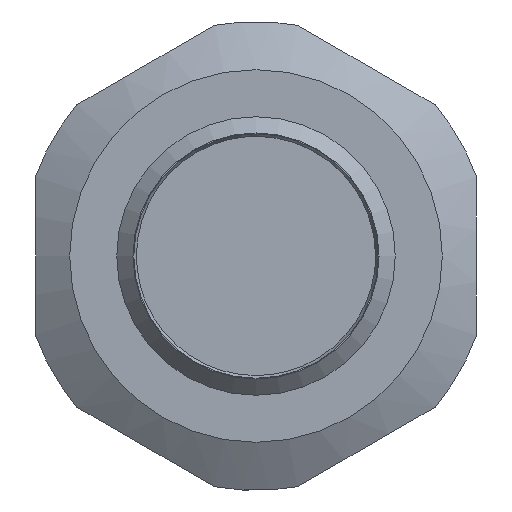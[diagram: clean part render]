
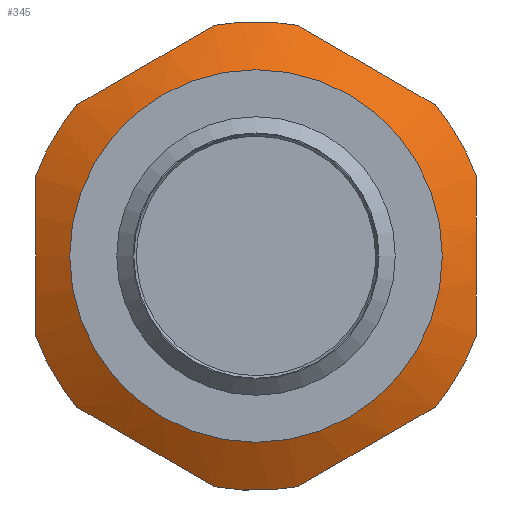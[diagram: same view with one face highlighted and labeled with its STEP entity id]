
A CAD part, front view. The second image highlights one B-rep face of the part: STEP entity #345.
In plain terms, the highlighted conical face has half-angle 60 degrees and reference radius 7.663 mm.
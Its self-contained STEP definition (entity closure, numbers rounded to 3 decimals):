
#46=(
BOUNDED_CURVE()
B_SPLINE_CURVE(2,(#4225,#4226,#4227),.UNSPECIFIED.,.F.,.F.)
B_SPLINE_CURVE_WITH_KNOTS((3,3),(0.,1.),.UNSPECIFIED.)
CURVE()
GEOMETRIC_REPRESENTATION_ITEM()
RATIONAL_B_SPLINE_CURVE((1.,1.063,1.))
REPRESENTATION_ITEM('')
);
#48=(
BOUNDED_CURVE()
B_SPLINE_CURVE(2,(#4241,#4242,#4243),.UNSPECIFIED.,.F.,.F.)
B_SPLINE_CURVE_WITH_KNOTS((3,3),(0.,1.),.UNSPECIFIED.)
CURVE()
GEOMETRIC_REPRESENTATION_ITEM()
RATIONAL_B_SPLINE_CURVE((1.,1.063,1.))
REPRESENTATION_ITEM('')
);
#54=(
BOUNDED_CURVE()
B_SPLINE_CURVE(2,(#4284,#4285,#4286),.UNSPECIFIED.,.F.,.F.)
B_SPLINE_CURVE_WITH_KNOTS((3,3),(0.,1.),.UNSPECIFIED.)
CURVE()
GEOMETRIC_REPRESENTATION_ITEM()
RATIONAL_B_SPLINE_CURVE((1.,1.032,1.032))
REPRESENTATION_ITEM('')
);
#55=(
BOUNDED_CURVE()
B_SPLINE_CURVE(2,(#4291,#4292,#4293),.UNSPECIFIED.,.F.,.F.)
B_SPLINE_CURVE_WITH_KNOTS((3,3),(0.,1.),.UNSPECIFIED.)
CURVE()
GEOMETRIC_REPRESENTATION_ITEM()
RATIONAL_B_SPLINE_CURVE((1.,1.063,1.))
REPRESENTATION_ITEM('')
);
#56=(
BOUNDED_CURVE()
B_SPLINE_CURVE(2,(#4296,#4297,#4298),.UNSPECIFIED.,.F.,.F.)
B_SPLINE_CURVE_WITH_KNOTS((3,3),(0.,1.),.UNSPECIFIED.)
CURVE()
GEOMETRIC_REPRESENTATION_ITEM()
RATIONAL_B_SPLINE_CURVE((1.,1.063,1.))
REPRESENTATION_ITEM('')
);
#57=(
BOUNDED_CURVE()
B_SPLINE_CURVE(2,(#4302,#4303,#4304),.UNSPECIFIED.,.F.,.F.)
B_SPLINE_CURVE_WITH_KNOTS((3,3),(0.,1.),.UNSPECIFIED.)
CURVE()
GEOMETRIC_REPRESENTATION_ITEM()
RATIONAL_B_SPLINE_CURVE((1.,1.063,1.))
REPRESENTATION_ITEM('')
);
#58=(
BOUNDED_CURVE()
B_SPLINE_CURVE(2,(#4308,#4309,#4310),.UNSPECIFIED.,.F.,.F.)
B_SPLINE_CURVE_WITH_KNOTS((3,3),(0.,1.),.UNSPECIFIED.)
CURVE()
GEOMETRIC_REPRESENTATION_ITEM()
RATIONAL_B_SPLINE_CURVE((1.032,1.032,1.))
REPRESENTATION_ITEM('')
);
#176=CONICAL_SURFACE('',#1096,7.663,60.);
#254=FACE_BOUND('',#492,.T.);
#255=FACE_BOUND('',#493,.T.);
#272=CIRCLE('',#1073,10.1);
#274=CIRCLE('',#1077,10.1);
#282=CIRCLE('',#1090,8.028);
#283=CIRCLE('',#1092,10.1);
#284=CIRCLE('',#1093,10.1);
#285=CIRCLE('',#1094,10.1);
#286=CIRCLE('',#1095,10.1);
#345=ADVANCED_FACE('32-0-97',(#254,#255),#176,.T.);
#492=EDGE_LOOP('',(#700,#701,#702,#703,#704,#705,#706,#707,#708,#709,#710,
#711,#712));
#493=EDGE_LOOP('',(#713));
#700=ORIENTED_EDGE('',*,*,#949,.F.);
#701=ORIENTED_EDGE('',*,*,#950,.F.);
#702=ORIENTED_EDGE('',*,*,#951,.F.);
#703=ORIENTED_EDGE('',*,*,#925,.F.);
#704=ORIENTED_EDGE('',*,*,#929,.F.);
#705=ORIENTED_EDGE('',*,*,#932,.F.);
#706=ORIENTED_EDGE('',*,*,#935,.F.);
#707=ORIENTED_EDGE('',*,*,#952,.F.);
#708=ORIENTED_EDGE('',*,*,#953,.F.);
#709=ORIENTED_EDGE('',*,*,#954,.F.);
#710=ORIENTED_EDGE('',*,*,#955,.F.);
#711=ORIENTED_EDGE('',*,*,#956,.F.);
#712=ORIENTED_EDGE('',*,*,#957,.F.);
#713=ORIENTED_EDGE('',*,*,#948,.F.);
#814=VERTEX_POINT('',#4214);
#815=VERTEX_POINT('',#4216);
#817=VERTEX_POINT('',#4224);
#819=VERTEX_POINT('',#4232);
#821=VERTEX_POINT('',#4240);
#833=VERTEX_POINT('',#4282);
#834=VERTEX_POINT('',#4287);
#835=VERTEX_POINT('',#4288);
#836=VERTEX_POINT('',#4290);
#837=VERTEX_POINT('',#4295);
#838=VERTEX_POINT('',#4299);
#839=VERTEX_POINT('',#4301);
#840=VERTEX_POINT('',#4305);
#841=VERTEX_POINT('',#4307);
#925=EDGE_CURVE('',#814,#815,#272,.T.);
#929=EDGE_CURVE('',#817,#814,#46,.T.);
#932=EDGE_CURVE('',#819,#817,#274,.T.);
#935=EDGE_CURVE('',#821,#819,#48,.T.);
#948=EDGE_CURVE('',#833,#833,#282,.T.);
#949=EDGE_CURVE('',#834,#835,#54,.T.);
#950=EDGE_CURVE('',#836,#834,#283,.T.);
#951=EDGE_CURVE('',#815,#836,#55,.T.);
#952=EDGE_CURVE('',#837,#821,#284,.T.);
#953=EDGE_CURVE('',#838,#837,#56,.T.);
#954=EDGE_CURVE('',#839,#838,#285,.T.);
#955=EDGE_CURVE('',#840,#839,#57,.T.);
#956=EDGE_CURVE('',#841,#840,#286,.T.);
#957=EDGE_CURVE('',#835,#841,#58,.T.);
#1073=AXIS2_PLACEMENT_3D('',#4215,#1222,#1223);
#1077=AXIS2_PLACEMENT_3D('',#4233,#1233,#1234);
#1090=AXIS2_PLACEMENT_3D('',#4281,#1260,#1261);
#1092=AXIS2_PLACEMENT_3D('',#4289,#1264,#1265);
#1093=AXIS2_PLACEMENT_3D('',#4294,#1266,#1267);
#1094=AXIS2_PLACEMENT_3D('',#4300,#1268,#1269);
#1095=AXIS2_PLACEMENT_3D('',#4306,#1270,#1271);
#1096=AXIS2_PLACEMENT_3D('',#4311,#1272,#1273);
#1222=DIRECTION('',(0.,0.,-1.));
#1223=DIRECTION('',(0.176,-0.984,0.));
#1233=DIRECTION('',(0.,0.,-1.));
#1234=DIRECTION('',(0.941,-0.34,0.));
#1260=DIRECTION('',(0.,0.,1.));
#1261=DIRECTION('',(-1.,0.,0.));
#1264=DIRECTION('',(0.,0.,-1.));
#1265=DIRECTION('',(-0.764,-0.645,0.));
#1266=DIRECTION('',(0.,0.,-1.));
#1267=DIRECTION('',(0.764,0.645,0.));
#1268=DIRECTION('',(0.,0.,-1.));
#1269=DIRECTION('',(-0.176,0.984,0.));
#1270=DIRECTION('',(0.,0.,-1.));
#1271=DIRECTION('',(-0.941,0.34,0.));
#1272=DIRECTION('',(0.,0.,-1.));
#1273=DIRECTION('',(-1.,0.,0.));
#4214=CARTESIAN_POINT('',(-143.159,2.355,-84.739));
#4215=CARTESIAN_POINT('',(-144.939,12.297,-84.739));
#4216=CARTESIAN_POINT('',(-146.72,2.355,-84.739));
#4224=CARTESIAN_POINT('',(-137.22,5.784,-84.739));
#4225=CARTESIAN_POINT('',(-137.22,5.784,-84.739));
#4226=CARTESIAN_POINT('',(-140.189,4.069,-84.067));
#4227=CARTESIAN_POINT('',(-143.159,2.355,-84.739));
#4232=CARTESIAN_POINT('',(-135.439,8.867,-84.739));
#4233=CARTESIAN_POINT('',(-144.939,12.297,-84.739));
#4240=CARTESIAN_POINT('',(-135.439,15.726,-84.739));
#4241=CARTESIAN_POINT('',(-135.439,15.726,-84.739));
#4242=CARTESIAN_POINT('',(-135.439,12.297,-84.067));
#4243=CARTESIAN_POINT('',(-135.439,8.867,-84.739));
#4281=CARTESIAN_POINT('',(-144.939,12.297,-83.543));
#4282=CARTESIAN_POINT('',(-152.967,12.297,-83.543));
#4284=CARTESIAN_POINT('',(-154.439,8.867,-84.739));
#4285=CARTESIAN_POINT('',(-154.439,10.634,-84.393));
#4286=CARTESIAN_POINT('',(-154.439,12.297,-84.393));
#4287=CARTESIAN_POINT('',(-154.439,8.867,-84.739));
#4288=CARTESIAN_POINT('',(-154.439,12.297,-84.393));
#4289=CARTESIAN_POINT('',(-144.939,12.297,-84.739));
#4290=CARTESIAN_POINT('',(-152.659,5.784,-84.739));
#4291=CARTESIAN_POINT('',(-146.72,2.355,-84.739));
#4292=CARTESIAN_POINT('',(-149.689,4.069,-84.067));
#4293=CARTESIAN_POINT('',(-152.659,5.784,-84.739));
#4294=CARTESIAN_POINT('',(-144.939,12.297,-84.739));
#4295=CARTESIAN_POINT('',(-137.22,18.809,-84.739));
#4296=CARTESIAN_POINT('',(-143.159,22.238,-84.739));
#4297=CARTESIAN_POINT('',(-140.189,20.524,-84.067));
#4298=CARTESIAN_POINT('',(-137.22,18.809,-84.739));
#4299=CARTESIAN_POINT('',(-143.159,22.238,-84.739));
#4300=CARTESIAN_POINT('',(-144.939,12.297,-84.739));
#4301=CARTESIAN_POINT('',(-146.72,22.238,-84.739));
#4302=CARTESIAN_POINT('',(-152.659,18.809,-84.739));
#4303=CARTESIAN_POINT('',(-149.689,20.524,-84.067));
#4304=CARTESIAN_POINT('',(-146.72,22.238,-84.739));
#4305=CARTESIAN_POINT('',(-152.659,18.809,-84.739));
#4306=CARTESIAN_POINT('',(-144.939,12.297,-84.739));
#4307=CARTESIAN_POINT('',(-154.439,15.726,-84.739));
#4308=CARTESIAN_POINT('',(-154.439,12.297,-84.393));
#4309=CARTESIAN_POINT('',(-154.439,13.959,-84.393));
#4310=CARTESIAN_POINT('',(-154.439,15.726,-84.739));
#4311=CARTESIAN_POINT('',(-144.939,12.297,-83.332));
